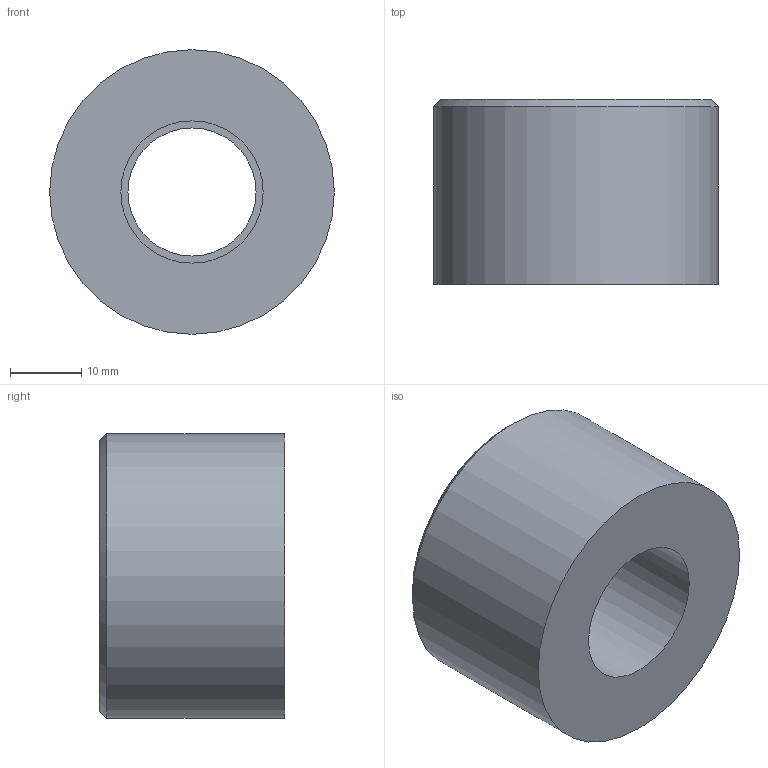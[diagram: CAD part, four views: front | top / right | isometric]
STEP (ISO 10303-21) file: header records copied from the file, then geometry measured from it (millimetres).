
FILE_DESCRIPTION(/* description */ ('PVC riduzione corta incollaggio metrica'),/* implementation_level */ '2;1');
FILE_NAME(/* name */ 'C:\Users\POLYPIPE\Desktop\DATASET INVENTOR\LIBRERIA EFFAST\RACCORDI 3DxWEB\RDR\3D_RDRRCD\3D_RDRRCD040B.stp',/* time_stamp */ '2018-01-19T15:29:32+01:00',/* author */ ('POLYPIPE'),/* organization */ ('Polypipe Italia s.r.l.'),/* preprocessor_version */ 'ST-DEVELOPER v16.1',/* originating_system */ 'Autodesk Inventor 2016',/* authorisation */ '');
FILE_SCHEMA (('CONFIG_CONTROL_DESIGN'));
Length unit declared in the file: millimetre
Products named in the file (1): 3D_RDRRCD
Bounding box: 40 x 26 x 40 mm (x, y, z)
Volume: 23173.4 mm3; surface area: 6621.7 mm2
Topology: 1 solids, 1 shells, 8 faces, 13 edges, 8 vertices
Faces by surface type: plane 3, cylinder 3, cone 2
Full cylindrical faces by diameter (mm): 18 x1, 20 x1, 40 x1
Entity records: 192 total; most frequent: DIRECTION 34, CARTESIAN_POINT 25, AXIS2_PLACEMENT_3D 17, EDGE_LOOP 16, ORIENTED_EDGE 16, FACE_BOUND 8, FACE_OUTER_BOUND 8, CIRCLE 8
